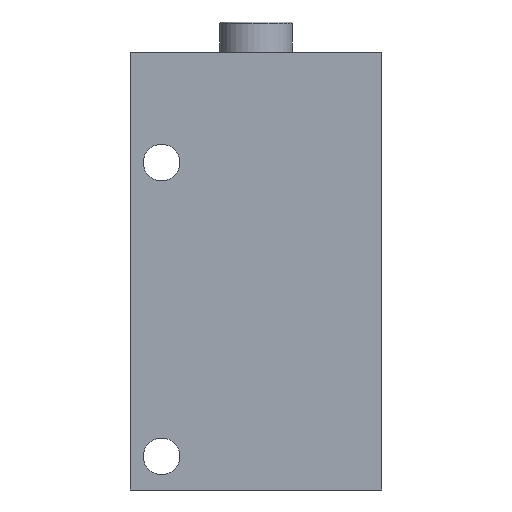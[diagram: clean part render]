
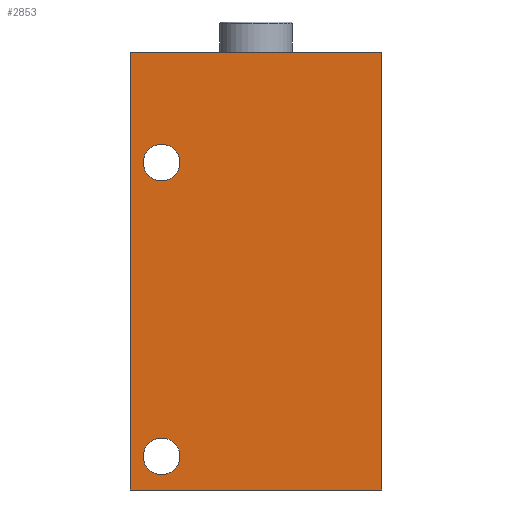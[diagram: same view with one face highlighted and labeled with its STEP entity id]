
A CAD part, front view. The second image highlights one B-rep face of the part: STEP entity #2853.
In plain terms, the highlighted planar face has unit normal (0, -1, 0).
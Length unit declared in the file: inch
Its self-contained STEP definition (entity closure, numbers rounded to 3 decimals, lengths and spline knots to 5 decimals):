
#216=LINE('',#4290,#416);
#352=LINE('',#4869,#552);
#356=LINE('',#5019,#556);
#358=LINE('',#5030,#558);
#416=VECTOR('',#3291,2.608);
#552=VECTOR('',#3523,2.608);
#556=VECTOR('',#3581,1.5);
#558=VECTOR('',#3595,1.5);
#766=PLANE('',#3051);
#852=FACE_BOUND('',#1248,.T.);
#853=FACE_BOUND('',#1249,.T.);
#854=FACE_BOUND('',#1250,.T.);
#1248=EDGE_LOOP('',(#2595));
#1249=EDGE_LOOP('',(#2596));
#1250=EDGE_LOOP('',(#2597,#2598,#2599,#2600));
#1371=CIRCLE('',#3009,0.10938);
#1373=CIRCLE('',#3012,0.10938);
#1502=VERTEX_POINT('',#4283);
#1505=VERTEX_POINT('',#4288);
#1615=VERTEX_POINT('',#4866);
#1616=VERTEX_POINT('',#4868);
#1623=VERTEX_POINT('',#4888);
#1625=VERTEX_POINT('',#4893);
#1786=EDGE_CURVE('',#1505,#1502,#216,.T.);
#1950=EDGE_CURVE('',#1616,#1615,#352,.T.);
#1958=EDGE_CURVE('',#1623,#1623,#1371,.T.);
#1960=EDGE_CURVE('',#1625,#1625,#1373,.T.);
#1970=EDGE_CURVE('',#1616,#1505,#356,.T.);
#1975=EDGE_CURVE('',#1615,#1502,#358,.T.);
#2595=ORIENTED_EDGE('',*,*,#1958,.T.);
#2596=ORIENTED_EDGE('',*,*,#1960,.T.);
#2597=ORIENTED_EDGE('',*,*,#1975,.T.);
#2598=ORIENTED_EDGE('',*,*,#1786,.F.);
#2599=ORIENTED_EDGE('',*,*,#1970,.F.);
#2600=ORIENTED_EDGE('',*,*,#1950,.T.);
#2853=ADVANCED_FACE('',(#852,#853,#854),#766,.T.);
#3009=AXIS2_PLACEMENT_3D('',#4889,#3546,#3547);
#3012=AXIS2_PLACEMENT_3D('',#4894,#3552,#3553);
#3051=AXIS2_PLACEMENT_3D('',#5058,#3634,#3635);
#3291=DIRECTION('',(0.,0.,1.));
#3523=DIRECTION('',(0.,0.,1.));
#3546=DIRECTION('center_axis',(0.,1.,0.));
#3547=DIRECTION('ref_axis',(1.,0.,0.));
#3552=DIRECTION('center_axis',(0.,1.,0.));
#3553=DIRECTION('ref_axis',(1.,0.,0.));
#3581=DIRECTION('',(-1.,0.,0.));
#3595=DIRECTION('',(-1.,0.,0.));
#3634=DIRECTION('center_axis',(0.,-1.,0.));
#3635=DIRECTION('ref_axis',(0.,0.,-1.));
#4283=CARTESIAN_POINT('',(-0.75,-0.5,2.608));
#4288=CARTESIAN_POINT('',(-0.75,-0.5,0.));
#4290=CARTESIAN_POINT('',(-0.75,-0.5,0.));
#4866=CARTESIAN_POINT('',(0.75,-0.5,2.608));
#4868=CARTESIAN_POINT('',(0.75,-0.5,0.));
#4869=CARTESIAN_POINT('',(0.75,-0.5,0.));
#4888=CARTESIAN_POINT('',(-0.45313,-0.5,0.2));
#4889=CARTESIAN_POINT('Origin',(-0.5625,-0.5,0.2));
#4893=CARTESIAN_POINT('',(-0.45313,-0.5,1.95));
#4894=CARTESIAN_POINT('Origin',(-0.5625,-0.5,1.95));
#5019=CARTESIAN_POINT('',(0.75,-0.5,0.));
#5030=CARTESIAN_POINT('',(0.75,-0.5,2.608));
#5058=CARTESIAN_POINT('Origin',(0.75,-0.5,0.));
